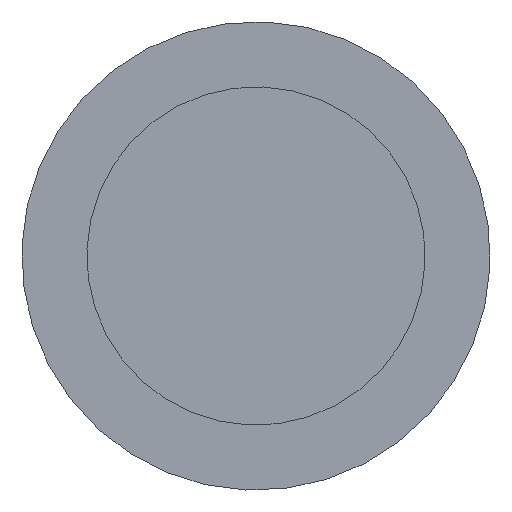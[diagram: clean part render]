
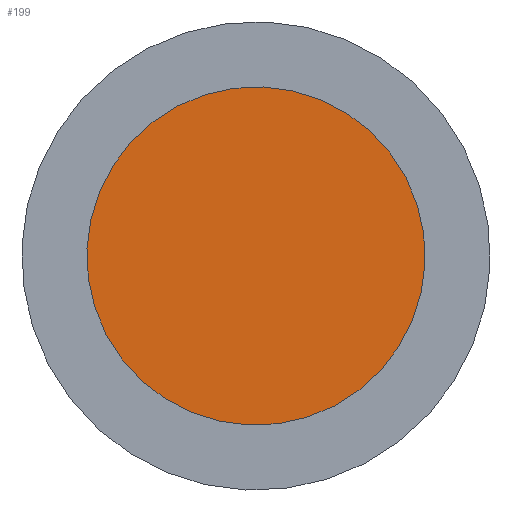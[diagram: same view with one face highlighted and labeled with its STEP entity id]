
A CAD part, front view. The second image highlights one B-rep face of the part: STEP entity #199.
In plain terms, the highlighted planar face has unit normal (0, -1, 0).
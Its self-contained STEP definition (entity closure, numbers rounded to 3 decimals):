
#133 = CYLINDRICAL_SURFACE('',#134,6.5);
#134 = AXIS2_PLACEMENT_3D('',#135,#136,#137);
#135 = CARTESIAN_POINT('',(37.924,59.5,16.38));
#136 = DIRECTION('',(0.,1.,0.));
#137 = DIRECTION('',(0.976,0.,-0.216));
#149 = VERTEX_POINT('',#150);
#150 = CARTESIAN_POINT('',(44.27,45.5,14.973));
#171 = EDGE_CURVE('',#149,#149,#172,.T.);
#172 = SURFACE_CURVE('',#173,(#178,#185),.PCURVE_S1.);
#173 = CIRCLE('',#174,6.5);
#174 = AXIS2_PLACEMENT_3D('',#175,#176,#177);
#175 = CARTESIAN_POINT('',(37.924,45.5,16.38));
#176 = DIRECTION('',(0.,-1.,0.));
#177 = DIRECTION('',(0.976,0.,-0.216));
#178 = PCURVE('',#133,#179);
#179 = DEFINITIONAL_REPRESENTATION('',(#180),#184);
#180 = LINE('',#181,#182);
#181 = CARTESIAN_POINT('',(-0.,-14.));
#182 = VECTOR('',#183,1.);
#183 = DIRECTION('',(-1.,0.));
#184 = ( GEOMETRIC_REPRESENTATION_CONTEXT(2) 
PARAMETRIC_REPRESENTATION_CONTEXT() REPRESENTATION_CONTEXT('2D SPACE',''
  ) );
#185 = PCURVE('',#186,#191);
#186 = PLANE('',#187);
#187 = AXIS2_PLACEMENT_3D('',#188,#189,#190);
#188 = CARTESIAN_POINT('',(37.924,45.5,16.38));
#189 = DIRECTION('',(-0.,-1.,0.));
#190 = DIRECTION('',(-0.216,0.,-0.976));
#191 = DEFINITIONAL_REPRESENTATION('',(#192),#196);
#192 = CIRCLE('',#193,6.5);
#193 = AXIS2_PLACEMENT_2D('',#194,#195);
#194 = CARTESIAN_POINT('',(0.,0.));
#195 = DIRECTION('',(0.,1.));
#196 = ( GEOMETRIC_REPRESENTATION_CONTEXT(2) 
PARAMETRIC_REPRESENTATION_CONTEXT() REPRESENTATION_CONTEXT('2D SPACE',''
  ) );
#199 = ADVANCED_FACE('',(#200),#186,.T.);
#200 = FACE_BOUND('',#201,.T.);
#201 = EDGE_LOOP('',(#202));
#202 = ORIENTED_EDGE('',*,*,#171,.T.);
